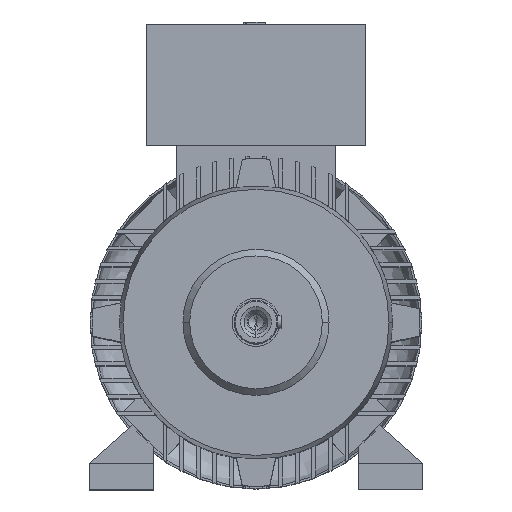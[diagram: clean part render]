
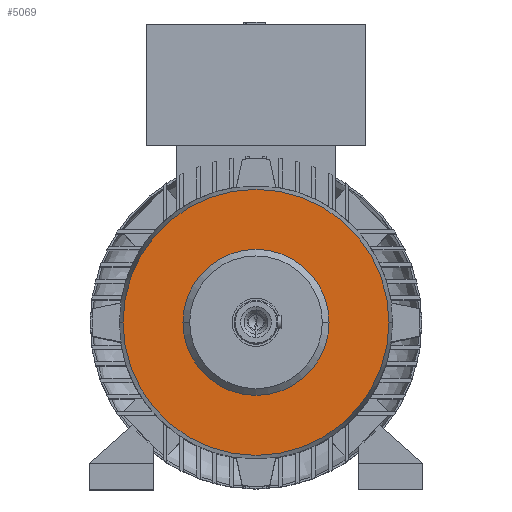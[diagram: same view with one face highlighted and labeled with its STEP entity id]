
A CAD part, top view. The second image highlights one B-rep face of the part: STEP entity #5069.
In plain terms, the highlighted planar face has unit normal (0, 0, 1).
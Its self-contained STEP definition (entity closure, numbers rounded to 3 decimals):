
#642 = CARTESIAN_POINT ( 'NONE',  ( 0., 0., 226.6 ) ) ;
#1161 = DIRECTION ( 'NONE',  ( 0., 0., -1. ) ) ;
#1527 = DIRECTION ( 'NONE',  ( 0., 0., 1. ) ) ;
#1742 = ORIENTED_EDGE ( 'NONE', *, *, #3045, .F. ) ;
#3045 = EDGE_CURVE ( 'NONE', #21663, #23680, #21928, .T. ) ;
#3746 = CARTESIAN_POINT ( 'NONE',  ( 0., 127.477, 226.6 ) ) ;
#3933 = EDGE_CURVE ( 'NONE', #23680, #21663, #23354, .T. ) ;
#4561 = CIRCLE ( 'NONE', #16001, 70. ) ;
#4927 = VERTEX_POINT ( 'NONE', #22264 ) ;
#5069 = ADVANCED_FACE ( 'NONE', ( #8652, #20339 ), #22535, .F. ) ;
#5360 = EDGE_CURVE ( 'NONE', #4927, #24231, #4561, .T. ) ;
#5369 = AXIS2_PLACEMENT_3D ( 'NONE', #3746, #11439, #24186 ) ;
#5674 = AXIS2_PLACEMENT_3D ( 'NONE', #642, #8054, #17286 ) ;
#6353 = ORIENTED_EDGE ( 'NONE', *, *, #20861, .F. ) ;
#6791 = DIRECTION ( 'NONE',  ( -1., 0., 0. ) ) ;
#8054 = DIRECTION ( 'NONE',  ( 0., 0., -1. ) ) ;
#8330 = CIRCLE ( 'NONE', #12115, 70. ) ;
#8652 = FACE_OUTER_BOUND ( 'NONE', #22813, .T. ) ;
#9094 = CARTESIAN_POINT ( 'NONE',  ( 0., 0., 226.6 ) ) ;
#9186 = EDGE_LOOP ( 'NONE', ( #6353, #9636 ) ) ;
#9636 = ORIENTED_EDGE ( 'NONE', *, *, #5360, .F. ) ;
#10606 = CARTESIAN_POINT ( 'NONE',  ( -127.477, 0., 226.6 ) ) ;
#11439 = DIRECTION ( 'NONE',  ( 0., 0., -1. ) ) ;
#11865 = CARTESIAN_POINT ( 'NONE',  ( -70., 0., 226.6 ) ) ;
#12115 = AXIS2_PLACEMENT_3D ( 'NONE', #9094, #18582, #18411 ) ;
#12346 = CARTESIAN_POINT ( 'NONE',  ( 0., 0., 226.6 ) ) ;
#13324 = CARTESIAN_POINT ( 'NONE',  ( 127.477, 0., 226.6 ) ) ;
#14493 = CARTESIAN_POINT ( 'NONE',  ( 0., 0., 226.6 ) ) ;
#15917 = ORIENTED_EDGE ( 'NONE', *, *, #3933, .F. ) ;
#16001 = AXIS2_PLACEMENT_3D ( 'NONE', #14493, #1527, #22116 ) ;
#17286 = DIRECTION ( 'NONE',  ( -1., 0., 0. ) ) ;
#18411 = DIRECTION ( 'NONE',  ( -1., 0., 0. ) ) ;
#18498 = AXIS2_PLACEMENT_3D ( 'NONE', #12346, #1161, #6791 ) ;
#18582 = DIRECTION ( 'NONE',  ( 0., 0., 1. ) ) ;
#20339 = FACE_BOUND ( 'NONE', #9186, .T. ) ;
#20861 = EDGE_CURVE ( 'NONE', #24231, #4927, #8330, .T. ) ;
#21663 = VERTEX_POINT ( 'NONE', #13324 ) ;
#21928 = CIRCLE ( 'NONE', #5674, 127.477 ) ;
#22116 = DIRECTION ( 'NONE',  ( -1., 0., 0. ) ) ;
#22264 = CARTESIAN_POINT ( 'NONE',  ( 70., 0., 226.6 ) ) ;
#22535 = PLANE ( 'NONE',  #5369 ) ;
#22813 = EDGE_LOOP ( 'NONE', ( #15917, #1742 ) ) ;
#23354 = CIRCLE ( 'NONE', #18498, 127.477 ) ;
#23680 = VERTEX_POINT ( 'NONE', #10606 ) ;
#24186 = DIRECTION ( 'NONE',  ( 0., 1., 0. ) ) ;
#24231 = VERTEX_POINT ( 'NONE', #11865 ) ;
